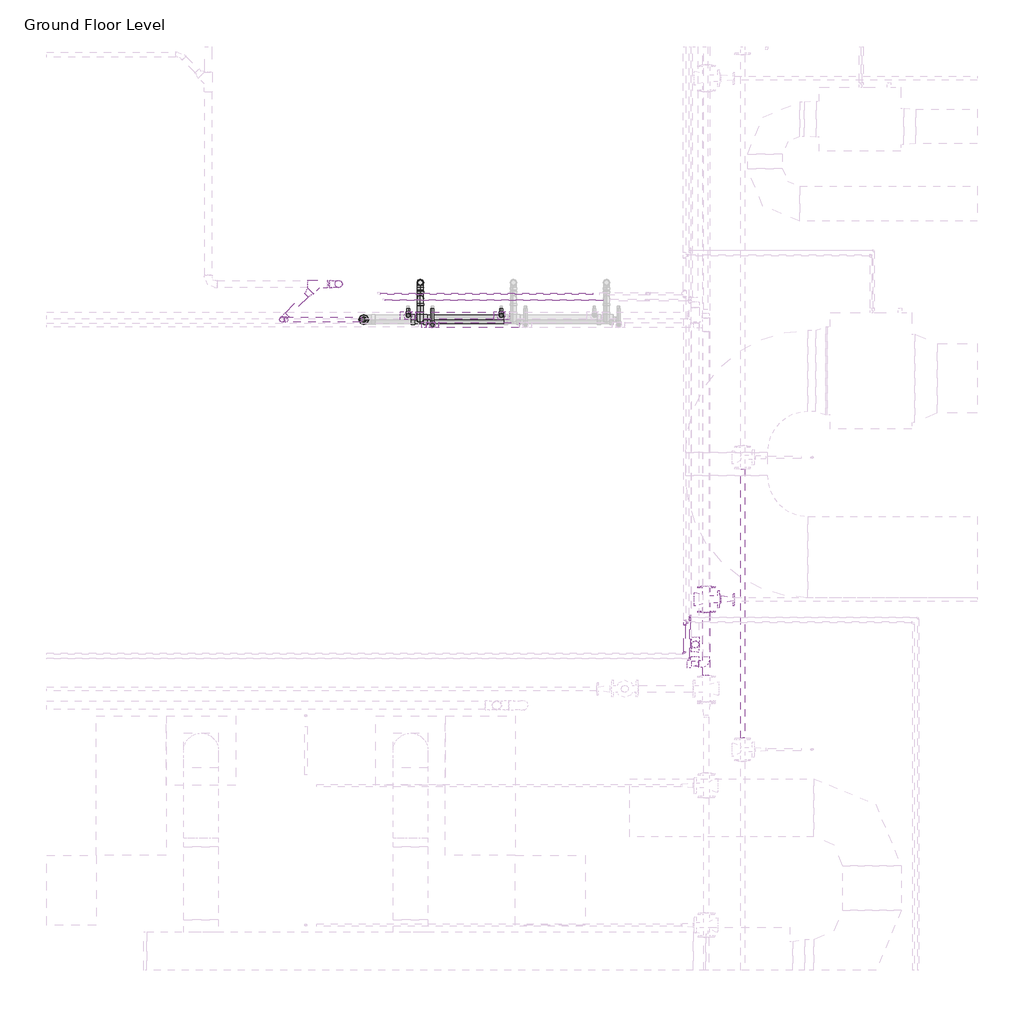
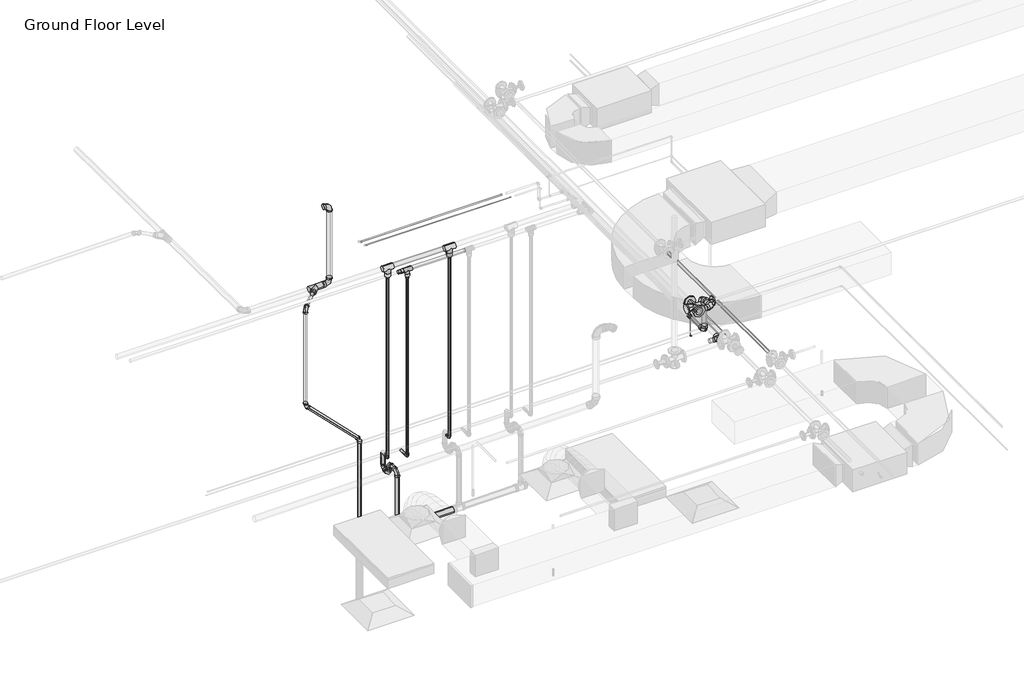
# One storey, part 16 of 74: 38 pipe fittings, 29 pipe segments.
"""IFC4 building model written with IfcOpenShell, lengths in millimetres."""

from ifc_helpers import new_model, si_unit, point, frame, frame_2d, origin, place, context, project, spatial, circle_curve, trimmed, segment, composite_curve, outline, extrude, transform, mapped, element, save
from components import m_bend_pvc_sch_40_dwv_standard_1e7bdcc1, m_bend_pvc_sch_40_dwv_standard_776e50c4, m_bend_pvc_sch_40_dwv_standard_aab78995, m_bend_pvc_sch_40_dwv_standard_952ced8a, m_bend_pvc_sch_40_dwv_standard_1eaeee76, m_bend_pvc_sch_40_dwv_standard_35448a73, m_bend_pvc_sch_40_dwv_standard_15ff6dcd, m_elbow_generic_standard_a088f956, m_elbow_generic_standard_2a704253, m_reducer_flanged_cs_class_150_standard_a7631c35, m_reducer_pvc_sch_40_dwv_standard_b84ad399, m_reducer_pvc_sch_40_dwv_standard_7e12a7c1, m_tee_generic_standard_5b2ed4d4, m_tee_generic_standard_cdc1cff5, m_tee_pvc_sch_40_standard_19f5fb6d, m_tee_reducing_sanitary_pvc_sch_40_dwv_standard_21d2848c, m_tee_round_base_flanged_cs_class_150_standard_dd767e04, m_transition_generic_standard_6dc712c0, m_transition_generic_standard_bdcfe2c1, m_transition_generic_standard_2d362458, standard_b266ab3f, standard_08ff6011, standard_d0d0b892, standard_cd25fed3, standard_83629b21, standard_57727813, standard_9d5ac8af, standard_102e5625

model = new_model("IFC4")

# Units and contexts
model_context = context("Model", 3, world=origin())
ifc_project = project(units=[si_unit("LENGTHUNIT", "METRE", prefix="MILLI")], contexts=[model_context])

# Site, building, storey
site = spatial("IfcSite", under=ifc_project)
building = spatial("IfcBuilding", under=site)
storey = spatial("IfcBuildingStorey", under=building, Name="Ground Floor Level", Elevation=900.0)

# Pipe fittings
placement = place(None, origin())
m_bend_pvc_sch_40_dwv_standard_shape = m_bend_pvc_sch_40_dwv_standard_1e7bdcc1(model_context)
element("IfcPipeFitting", 1, ObjectType="M_Bend - PVC - Sch 40 - DWV : Standard", at=placement, inside=storey, context=model_context, shape_type="MappedRepresentation", body=[
    mapped(m_bend_pvc_sch_40_dwv_standard_shape, transform((3226.7846789, -32541.2164355, 1350.0), x_axis=(0.0, 0.0, -1.0), y_axis=(0.0, -1.0, 0.0), z_axis=(-1.0, 0.0, 0.0))),
])
m_bend_pvc_sch_40_dwv_standard_2_shape = m_bend_pvc_sch_40_dwv_standard_776e50c4(model_context)
element("IfcPipeFitting", 2, ObjectType="M_Bend - PVC - Sch 40 - DWV : Standard", at=placement, inside=storey, context=model_context, shape_type="MappedRepresentation", body=[
    mapped(m_bend_pvc_sch_40_dwv_standard_2_shape, transform((3226.7846789, -32676.2164355, 1348.45), x_axis=(0.0, -0.9999500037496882, -0.009999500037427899), y_axis=(0.0, -0.009999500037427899, 0.9999500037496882), z_axis=(-1.0, 0.0, 0.0))),
])
element("IfcPipeFitting", 3, ObjectType="M_Bend - PVC - Sch 40 - DWV : Standard", at=placement, inside=storey, context=model_context, shape_type="MappedRepresentation", body=[
    mapped(m_bend_pvc_sch_40_dwv_standard_2_shape, transform((3226.7846789, -32676.2164355, 1490.0), x_axis=(0.0, 0.0, 1.0), y_axis=(0.0, -1.0, 0.0), z_axis=(1.0, 0.0, 0.0))),
])
m_bend_pvc_sch_40_dwv_standard_3_shape = m_bend_pvc_sch_40_dwv_standard_aab78995(model_context)
element("IfcPipeFitting", 4, ObjectType="M_Bend - PVC - Sch 40 - DWV : Standard", at=placement, inside=storey, context=model_context, shape_type="MappedRepresentation", body=[
    mapped(m_bend_pvc_sch_40_dwv_standard_3_shape, transform((3226.7846789, -32858.7119065, 1488.4250453), x_axis=(0.0, -0.999968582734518, -0.007926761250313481), y_axis=(0.0, 0.007926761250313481, -0.999968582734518), z_axis=(1.0, 0.0, 0.0))),
])
m_bend_pvc_sch_40_dwv_standard_4_shape = m_bend_pvc_sch_40_dwv_standard_952ced8a(model_context)
element("IfcPipeFitting", 5, ObjectType="M_Bend - PVC - Sch 40 - DWV : Standard", at=placement, inside=storey, context=model_context, shape_type="MappedRepresentation", body=[
    mapped(m_bend_pvc_sch_40_dwv_standard_4_shape, transform((2524.6562734, -32554.2948449, 4136.397893), x_axis=(0.9999500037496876, 0.0, 0.009999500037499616), y_axis=(-0.009999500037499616, 0.0, 0.9999500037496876), z_axis=(0.0, -1.0, 0.0))),
])
m_bend_pvc_sch_40_dwv_standard_5_shape = m_bend_pvc_sch_40_dwv_standard_1eaeee76(model_context)
element("IfcPipeFitting", 6, ObjectType="M_Bend - PVC - Sch 40 - DWV : Standard", at=placement, inside=storey, context=model_context, shape_type="MappedRepresentation", body=[
    mapped(m_bend_pvc_sch_40_dwv_standard_5_shape, transform((2524.640275, -32554.2948449, 5200.0), x_axis=(0.0, 0.0, 1.0), y_axis=(-1.0, 0.0, 0.0), z_axis=(0.0, -1.0, 0.0))),
])
m_bend_pvc_sch_40_dwv_standard_6_shape = m_bend_pvc_sch_40_dwv_standard_35448a73(model_context)
element("IfcPipeFitting", 7, ObjectType="M_Bend - PVC - Sch 40 - DWV : Standard", at=placement, inside=storey, context=model_context, shape_type="MappedRepresentation", body=[
    mapped(m_bend_pvc_sch_40_dwv_standard_6_shape, transform((2740.8154211, -32858.7119065, 2103.6875), x_axis=(0.0, 0.0, 1.0), y_axis=(-1.0, 0.0, 0.0), z_axis=(0.0, -1.0, 0.0))),
])
element("IfcPipeFitting", 8, ObjectType="M_Bend - PVC - Sch 40 - DWV : Standard", at=placement, inside=storey, context=model_context, shape_type="MappedRepresentation", body=[
    mapped(m_bend_pvc_sch_40_dwv_standard_6_shape, transform((2040.8154211, -32858.7119065, 2803.6875), x_axis=(0.0, 0.0, -1.0), y_axis=(1.0, 0.0, 0.0), z_axis=(0.0, -1.0, 0.0))),
])
m_bend_pvc_sch_40_dwv_standard_7_shape = m_bend_pvc_sch_40_dwv_standard_15ff6dcd(model_context)
element("IfcPipeFitting", 9, ObjectType="M_Bend - PVC - Sch 40 - DWV : Standard", at=placement, inside=storey, context=model_context, shape_type="MappedRepresentation", body=[
    mapped(m_bend_pvc_sch_40_dwv_standard_7_shape, transform((2040.8154211, -32858.7119065, 4132.2), x_axis=(0.0, 0.0, 1.0), y_axis=(0.7067664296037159, 0.7074469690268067, 0.0), z_axis=(-0.7074469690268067, 0.7067664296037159, 0.0))),
])
m_elbow_generic_standard_shape = m_elbow_generic_standard_a088f956(model_context)
element("IfcPipeFitting", 10, ObjectType="M_Elbow - Generic : Standard", at=placement, inside=storey, context=model_context, shape_type="MappedRepresentation", body=[
    mapped(m_elbow_generic_standard_shape, transform((5497.8951827, -35730.466218, 4390.0), x_axis=(1.0, 0.0, 0.0), y_axis=(0.0, 1.0, 0.0), z_axis=(0.0, 0.0, 1.0))),
])
m_elbow_generic_standard_2_shape = m_elbow_generic_standard_2a704253(model_context)
element("IfcPipeFitting", 11, ObjectType="M_Elbow - Generic : Standard", at=placement, inside=storey, context=model_context, shape_type="MappedRepresentation", body=[
    mapped(m_elbow_generic_standard_2_shape, transform((5543.9904113, -35773.5402522, 4377.5), x_axis=(1.0, 0.0, 0.0), y_axis=(0.0, 1.0, 0.0), z_axis=(0.0, 0.0, 1.0))),
])
element("IfcPipeFitting", 12, ObjectType="M_Elbow - Generic : Standard", at=placement, inside=storey, context=model_context, shape_type="MappedRepresentation", body=[
    mapped(m_elbow_generic_standard_2_shape, transform((5543.9904113, -35420.6009836, 4084.9), x_axis=(0.0, 0.0, -1.0), y_axis=(1.0, 0.0, 0.0), z_axis=(0.0, -1.0, 0.0))),
])
m_reducer_flanged_cs_class_150_standard_shape = m_reducer_flanged_cs_class_150_standard_a7631c35(model_context)
element("IfcPipeFitting", 13, ObjectType="M_Reducer - Flanged - CS - Class 150 : Standard", at=placement, inside=storey, context=model_context, shape_type="MappedRepresentation", body=[
    mapped(m_reducer_flanged_cs_class_150_standard_shape, transform((5798.6174894, -35264.7846466, 4347.5), x_axis=(1.0, 0.0, 0.0), y_axis=(0.0, 0.0, 1.0), z_axis=(0.0, -1.0, 0.0))),
])
m_reducer_pvc_sch_40_dwv_standard_shape = m_reducer_pvc_sch_40_dwv_standard_b84ad399(model_context)
element("IfcPipeFitting", 14, ObjectType="M_Reducer - PVC - Sch 40 - DWV : Standard", at=placement, inside=storey, context=model_context, shape_type="MappedRepresentation", body=[
    mapped(m_reducer_pvc_sch_40_dwv_standard_shape, transform((2740.8154211, -32858.7119065, 785.9492095), x_axis=(0.0, 0.0, 1.0), y_axis=(-1.0, 0.0, 0.0), z_axis=(0.0, -1.0, 0.0))),
])
m_reducer_pvc_sch_40_dwv_standard_2_shape = m_reducer_pvc_sch_40_dwv_standard_7e12a7c1(model_context)
element("IfcPipeFitting", 15, ObjectType="M_Reducer - PVC - Sch 40 - DWV : Standard", at=placement, inside=storey, context=model_context, shape_type="MappedRepresentation", body=[
    mapped(m_reducer_pvc_sch_40_dwv_standard_2_shape, transform((2285.3872765, -32613.9038225, 4134.1686229), x_axis=(-0.7067614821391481, -0.707433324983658, -0.0051281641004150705), y_axis=(0.7073812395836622, -0.7067747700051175, 0.009011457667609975), z_axis=(-0.009999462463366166, 0.0027413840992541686, 0.999946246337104))),
])
m_tee_generic_standard_shape = m_tee_generic_standard_5b2ed4d4(model_context)
element("IfcPipeFitting", 16, ObjectType="M_Tee - Generic : Standard", at=placement, inside=storey, context=model_context, shape_type="MappedRepresentation", body=[
    mapped(m_tee_generic_standard_shape, transform((5543.9904113, -35420.6009836, 4377.5), x_axis=(0.0, 1.0, 0.0), y_axis=(0.0, 0.0, 1.0), z_axis=(1.0, 0.0, 0.0))),
])
m_tee_generic_standard_2_shape = m_tee_generic_standard_cdc1cff5(model_context)
element("IfcPipeFitting", 17, ObjectType="M_Tee - Generic : Standard", at=placement, inside=storey, context=model_context, shape_type="MappedRepresentation", body=[
    mapped(m_tee_generic_standard_2_shape, transform((5497.8951827, -35463.1206952, 4390.0), x_axis=(0.0, 1.0, 0.0), y_axis=(-1.0, 0.0, 0.0), z_axis=(0.0, 0.0, 1.0))),
])
m_tee_pvc_sch_40_standard_shape = m_tee_pvc_sch_40_standard_19f5fb6d(model_context)
element("IfcPipeFitting", 18, ObjectType="M_Tee - PVC - Sch 40 : Standard", at=placement, inside=storey, context=model_context, shape_type="MappedRepresentation", body=[
    mapped(m_tee_pvc_sch_40_standard_shape, transform((2344.939644, -32554.2948449, 4134.6007267), x_axis=(0.9999500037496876, 0.0, 0.009999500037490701), y_axis=(2.7412470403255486e-05, 0.9999962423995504, -0.002741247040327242), z_axis=(-0.009999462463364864, 0.0027413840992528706, 0.9999462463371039))),
])
m_tee_reducing_sanitary_pvc_sch_40_dwv_standard_shape = m_tee_reducing_sanitary_pvc_sch_40_dwv_standard_21d2848c(model_context)
element("IfcPipeFitting", 19, ObjectType="M_Tee Reducing Sanitary - PVC - Sch 40 - DWV : Standard", at=placement, inside=storey, context=model_context, shape_type="MappedRepresentation", body=[
    mapped(m_tee_reducing_sanitary_pvc_sch_40_dwv_standard_shape, transform((3226.7846789, -32858.7119065, 706.4596926), x_axis=(0.9999500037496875, 0.0, 0.00999950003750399), y_axis=(0.00999950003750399, 0.0, -0.9999500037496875), z_axis=(0.0, 1.0, 0.0))),
])
m_tee_round_base_flanged_cs_class_150_standard_shape = m_tee_round_base_flanged_cs_class_150_standard_dd767e04(model_context)
element("IfcPipeFitting", 20, ObjectType="M_Tee Round Base - Flanged - CS - Class 150 : Standard", at=placement, inside=storey, context=model_context, shape_type="MappedRepresentation", body=[
    mapped(m_tee_round_base_flanged_cs_class_150_standard_shape, transform((5684.6174894, -35264.7846466, 4347.5), x_axis=(0.0, -1.0, 0.0), y_axis=(-1.0, 0.0, 0.0), z_axis=(0.0, 0.0, -1.0))),
])
m_transition_generic_standard_shape = m_transition_generic_standard_6dc712c0(model_context)
element("IfcPipeFitting", 21, ObjectType="M_Transition - Generic : Standard", at=placement, inside=storey, context=model_context, shape_type="MappedRepresentation", body=[
    mapped(m_transition_generic_standard_shape, transform((5497.8951827, -35485.3456952, 4390.0), x_axis=(0.0, -1.0, 0.0), y_axis=(1.0, 0.0, 0.0), z_axis=(0.0, 0.0, 1.0))),
])
element("IfcPipeFitting", 22, ObjectType="M_Transition - Generic : Standard", at=placement, inside=storey, context=model_context, shape_type="MappedRepresentation", body=[
    mapped(m_transition_generic_standard_shape, transform((5520.1201827, -35463.1206952, 4390.0), x_axis=(1.0, 0.0, 0.0), y_axis=(0.0, 1.0, 0.0), z_axis=(0.0, 0.0, 1.0))),
])
m_transition_generic_standard_2_shape = m_transition_generic_standard_bdcfe2c1(model_context)
element("IfcPipeFitting", 23, ObjectType="M_Transition - Generic : Standard", at=placement, inside=storey, context=model_context, shape_type="MappedRepresentation", body=[
    mapped(m_transition_generic_standard_2_shape, transform((5543.9904113, -35441.2384836, 4377.5), x_axis=(0.0, -1.0, 0.0), y_axis=(1.0, 0.0, 0.0), z_axis=(0.0, 0.0, 1.0))),
])
m_transition_generic_standard_3_shape = m_transition_generic_standard_2d362458(model_context)
element("IfcPipeFitting", 24, ObjectType="M_Transition - Generic : Standard", at=placement, inside=storey, context=model_context, shape_type="MappedRepresentation", body=[
    mapped(m_transition_generic_standard_3_shape, transform((5543.9904113, -35420.6009836, 4356.8625), x_axis=(0.0, 0.0, -1.0), y_axis=(-1.0, 0.0, 0.0), z_axis=(0.0, 1.0, 0.0))),
])
standard_shape = standard_b266ab3f(model_context)
element("IfcPipeFitting", 25, ObjectType="M_Elbow - CPVC - Sch 40 : Standard", at=placement, inside=storey, context=model_context, shape_type="MappedRepresentation", body=[
    mapped(standard_shape, transform((3922.4697583, -32824.9853451, 1690.0), x_axis=(0.0, 0.0, -1.0), y_axis=(0.0, 1.0, 0.0), z_axis=(1.0, 0.0, 0.0))),
])
element("IfcPipeFitting", 26, ObjectType="M_Elbow - CPVC - Sch 40 : Standard", at=placement, inside=storey, context=model_context, shape_type="MappedRepresentation", body=[
    mapped(standard_shape, transform((3122.4697583, -32824.9853451, 1690.0), x_axis=(0.0, 0.0, -1.0), y_axis=(0.0, 1.0, 0.0), z_axis=(1.0, 0.0, 0.0))),
])
element("IfcPipeFitting", 27, ObjectType="M_Elbow - CPVC - Sch 40 : Standard", at=placement, inside=storey, context=model_context, shape_type="MappedRepresentation", body=[
    mapped(standard_shape, transform((3331.0995995, -32905.870708, 1690.0), x_axis=(0.0, -1.0, 0.0), y_axis=(0.0, 0.0, 1.0), z_axis=(-1.0, 0.0, 0.0))),
])
standard_2_shape = standard_08ff6011(model_context)
element("IfcPipeFitting", 28, ObjectType="M_Tee - CPVC - Sch 40 : Standard", at=placement, inside=storey, context=model_context, shape_type="MappedRepresentation", body=[
    mapped(standard_2_shape, transform((3331.0995995, -32905.870708, 4250.0), x_axis=(1.0, 0.0, 0.0), y_axis=(0.0, 0.0, 1.0), z_axis=(0.0, -1.0, 0.0))),
])
standard_3_shape = standard_d0d0b892(model_context)
element("IfcPipeFitting", 29, ObjectType="M_Coupling Reducing - CPVC - Sch 40 : Standard", at=placement, inside=storey, context=model_context, shape_type="MappedRepresentation", body=[
    mapped(standard_3_shape, transform((3277.1245995, -32905.870708, 4250.0), x_axis=(-1.0, 0.0, 0.0), y_axis=(0.0, -1.0, 0.0), z_axis=(0.0, 0.0, 1.0))),
])
standard_4_shape = standard_cd25fed3(model_context)
element("IfcPipeFitting", 30, ObjectType="M_Tee - CPVC - Sch 40 : Standard", at=placement, inside=storey, context=model_context, shape_type="MappedRepresentation", body=[
    mapped(standard_4_shape, transform((3922.4697583, -32824.9853451, 4300.0), x_axis=(-1.0, 0.0, 0.0), y_axis=(0.0, 0.0, 1.0), z_axis=(0.0, 1.0, 0.0))),
])
element("IfcPipeFitting", 31, ObjectType="M_Tee - CPVC - Sch 40 : Standard", at=placement, inside=storey, context=model_context, shape_type="MappedRepresentation", body=[
    mapped(standard_4_shape, transform((3122.4697583, -32824.9853451, 4300.0), x_axis=(-1.0, 0.0, 0.0), y_axis=(0.0, 0.0, 1.0), z_axis=(0.0, 1.0, 0.0))),
])
standard_5_shape = standard_83629b21(model_context)
element("IfcPipeFitting", 32, ObjectType="M_Coupling Reducing - CPVC - Sch 40 : Standard", at=placement, inside=storey, context=model_context, shape_type="MappedRepresentation", body=[
    mapped(standard_5_shape, transform((3331.0995995, -32905.870708, 4196.025), x_axis=(0.0, 0.0, -1.0), y_axis=(-1.0, 0.0, 0.0), z_axis=(0.0, 1.0, 0.0))),
])
standard_6_shape = standard_57727813(model_context)
element("IfcPipeFitting", 33, ObjectType="M_Elbow - CPVC - Sch 40 : Standard", at=placement, inside=storey, context=model_context, shape_type="MappedRepresentation", body=[
    mapped(standard_6_shape, transform((5589.646628, -35653.7116931, 4719.8375), x_axis=(0.0, 0.0, 1.0), y_axis=(-0.06975647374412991, -0.997564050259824, 0.0), z_axis=(0.997564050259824, -0.06975647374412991, 0.0))),
])
element("IfcPipeFitting", 34, ObjectType="M_Elbow - CPVC - Sch 40 : Standard", at=placement, inside=storey, context=model_context, shape_type="MappedRepresentation", body=[
    mapped(standard_6_shape, transform((5585.1617227, -35819.459752, 4719.8375), x_axis=(1.0, 0.0, 0.0), y_axis=(0.0, 1.0, 0.0), z_axis=(0.0, 0.0, 1.0))),
])
element("IfcPipeFitting", 35, ObjectType="M_Elbow - CPVC - Sch 40 : Standard", at=placement, inside=storey, context=model_context, shape_type="MappedRepresentation", body=[
    mapped(standard_6_shape, transform((5589.646628, -35653.7116931, 4300.0), x_axis=(0.0, 0.0, -1.0), y_axis=(0.0, 1.0, 0.0), z_axis=(1.0, 0.0, 0.0))),
])
standard_7_shape = standard_9d5ac8af(model_context)
element("IfcPipeFitting", 36, ObjectType="M_Coupling Reducing - CPVC - Sch 40 : Standard", at=placement, inside=storey, context=model_context, shape_type="MappedRepresentation", body=[
    mapped(standard_7_shape, transform((3922.4697583, -32824.9853451, 4233.325), x_axis=(0.0, 0.0, -1.0), y_axis=(-1.0, 0.0, 0.0), z_axis=(0.0, 1.0, 0.0))),
])
element("IfcPipeFitting", 37, ObjectType="M_Coupling Reducing - CPVC - Sch 40 : Standard", at=placement, inside=storey, context=model_context, shape_type="MappedRepresentation", body=[
    mapped(standard_7_shape, transform((3122.4697583, -32824.9853451, 4233.325), x_axis=(0.0, 0.0, -1.0), y_axis=(-1.0, 0.0, 0.0), z_axis=(0.0, 1.0, 0.0))),
])
standard_8_shape = standard_102e5625(model_context)
element("IfcPipeFitting", 38, ObjectType="M_Elbow - CPVC - Sch 40 : Standard", at=placement, inside=storey, context=model_context, shape_type="MappedRepresentation", body=[
    mapped(standard_8_shape, transform((5680.5575802, -35819.459752, 4250.0), x_axis=(1.0, 0.0, 0.0), y_axis=(0.0, 1.0, 0.0), z_axis=(0.0, 0.0, 1.0))),
])

# Pipe segments
element("IfcPipeSegment", 39, ObjectType="CPVC", at=placement, inside=storey, context=model_context, shape_type="SweptSolid", body=[
    extrude(outline(composite_curve([segment(trimmed(circle_curve(frame_2d((5589.646628, -35653.7116931)), 30.1625), [point((5559.484128, -35653.7116931))], [point((5589.646628, -35623.5491931))], False, "CARTESIAN"), True, "CONTINUOUS"), segment(trimmed(circle_curve(frame_2d((5589.646628, -35653.7116931)), 30.1625), [point((5589.646628, -35623.5491931))], [point((5619.809128, -35653.7116931))], False, "CARTESIAN"), True, "CONTINUOUS"), segment(trimmed(circle_curve(frame_2d((5589.646628, -35653.7116931)), 30.1625), [point((5619.809128, -35653.7116931))], [point((5589.646628, -35683.8741931))], False, "CARTESIAN"), True, "CONTINUOUS"), segment(trimmed(circle_curve(frame_2d((5589.646628, -35653.7116931)), 30.1625), [point((5589.646628, -35683.8741931))], [point((5559.484128, -35653.7116931))], False, "CARTESIAN"), True, "CONTINUOUS")], self_intersect=False)), frame((0.0, 0.0, 4364.29375), z_axis=(0.0, 0.0, 1.0), x_axis=(1.0, 0.0, 0.0)), (0.0, 0.0, 1.0), 291.25),
])
element("IfcPipeSegment", 40, ObjectType="CPVC", at=placement, inside=storey, context=model_context, shape_type="SweptSolid", body=[
    extrude(outline(composite_curve([segment(trimmed(circle_curve(frame_2d((1690.0, 3922.4697583)), 13.335), [point((1690.0, 3935.8047583))], [point((1703.335, 3922.4697583))], False, "CARTESIAN"), True, "CONTINUOUS"), segment(trimmed(circle_curve(frame_2d((1690.0, 3922.4697583)), 13.335), [point((1703.335, 3922.4697583))], [point((1690.0, 3909.1347583))], False, "CARTESIAN"), True, "CONTINUOUS"), segment(trimmed(circle_curve(frame_2d((1690.0, 3922.4697583)), 13.335), [point((1690.0, 3909.1347583))], [point((1676.665, 3922.4697583))], False, "CARTESIAN"), True, "CONTINUOUS"), segment(trimmed(circle_curve(frame_2d((1690.0, 3922.4697583)), 13.335), [point((1676.665, 3922.4697583))], [point((1690.0, 3935.8047583))], False, "CARTESIAN"), True, "CONTINUOUS")], self_intersect=False)), frame((0.0, -32789.6602951, 0.0), z_axis=(0.0, 1.0, 0.0), x_axis=(0.0, 0.0, 1.0)), (0.0, 0.0, 1.0), 24.8756485),
])
element("IfcPipeSegment", 41, ObjectType="CPVC", at=placement, inside=storey, context=model_context, shape_type="SweptSolid", body=[
    extrude(outline(composite_curve([segment(trimmed(circle_curve(frame_2d((3922.4697583, -32824.9853451)), 13.335), [point((3935.8047583, -32824.9853451))], [point((3922.4697583, -32838.3203451))], False, "CARTESIAN"), True, "CONTINUOUS"), segment(trimmed(circle_curve(frame_2d((3922.4697583, -32824.9853451)), 13.335), [point((3922.4697583, -32838.3203451))], [point((3909.1347583, -32824.9853451))], False, "CARTESIAN"), True, "CONTINUOUS"), segment(trimmed(circle_curve(frame_2d((3922.4697583, -32824.9853451)), 13.335), [point((3909.1347583, -32824.9853451))], [point((3922.4697583, -32811.6503451))], False, "CARTESIAN"), True, "CONTINUOUS"), segment(trimmed(circle_curve(frame_2d((3922.4697583, -32824.9853451)), 13.335), [point((3922.4697583, -32811.6503451))], [point((3935.8047583, -32824.9853451))], False, "CARTESIAN"), True, "CONTINUOUS")], self_intersect=False)), frame((0.0, 0.0, 1725.32505), z_axis=(0.0, 0.0, 1.0), x_axis=(1.0, 0.0, 0.0)), (0.0, 0.0, 1.0), 2431.503075),
])
element("IfcPipeSegment", 42, ObjectType="CPVC", at=placement, inside=storey, context=model_context, shape_type="SweptSolid", body=[
    extrude(outline(composite_curve([segment(trimmed(circle_curve(frame_2d((-32824.9853451, 4300.0)), 30.1625), [point((-32855.1478451, 4300.0))], [point((-32824.9853451, 4330.1625))], False, "CARTESIAN"), True, "CONTINUOUS"), segment(trimmed(circle_curve(frame_2d((-32824.9853451, 4300.0)), 30.1625), [point((-32824.9853451, 4330.1625))], [point((-32794.8228451, 4300.0))], False, "CARTESIAN"), True, "CONTINUOUS"), segment(trimmed(circle_curve(frame_2d((-32824.9853451, 4300.0)), 30.1625), [point((-32794.8228451, 4300.0))], [point((-32824.9853451, 4269.8375))], False, "CARTESIAN"), True, "CONTINUOUS"), segment(trimmed(circle_curve(frame_2d((-32824.9853451, 4300.0)), 30.1625), [point((-32824.9853451, 4269.8375))], [point((-32855.1478451, 4300.0))], False, "CARTESIAN"), True, "CONTINUOUS")], self_intersect=False)), frame((3189.1447583, 0.0, 0.0), z_axis=(1.0, 0.0, 0.0), x_axis=(0.0, 1.0, 0.0)), (0.0, 0.0, 1.0), 666.65),
])
element("IfcPipeSegment", 43, ObjectType="CPVC", at=placement, inside=storey, context=model_context, shape_type="SweptSolid", body=[
    extrude(outline(composite_curve([segment(trimmed(circle_curve(frame_2d((1690.0, 3122.4697583)), 13.335), [point((1690.0, 3135.8047583))], [point((1703.335, 3122.4697583))], False, "CARTESIAN"), True, "CONTINUOUS"), segment(trimmed(circle_curve(frame_2d((1690.0, 3122.4697583)), 13.335), [point((1703.335, 3122.4697583))], [point((1690.0, 3109.1347583))], False, "CARTESIAN"), True, "CONTINUOUS"), segment(trimmed(circle_curve(frame_2d((1690.0, 3122.4697583)), 13.335), [point((1690.0, 3109.1347583))], [point((1676.665, 3122.4697583))], False, "CARTESIAN"), True, "CONTINUOUS"), segment(trimmed(circle_curve(frame_2d((1690.0, 3122.4697583)), 13.335), [point((1676.665, 3122.4697583))], [point((1690.0, 3135.8047583))], False, "CARTESIAN"), True, "CONTINUOUS")], self_intersect=False)), frame((0.0, -32789.6602951, 0.0), z_axis=(0.0, 1.0, 0.0), x_axis=(0.0, 0.0, 1.0)), (0.0, 0.0, 1.0), 24.8756485),
])
element("IfcPipeSegment", 44, ObjectType="CPVC", at=placement, inside=storey, context=model_context, shape_type="SweptSolid", body=[
    extrude(outline(composite_curve([segment(trimmed(circle_curve(frame_2d((3122.4697583, -32824.9853451)), 13.335), [point((3135.8047583, -32824.9853451))], [point((3122.4697583, -32838.3203451))], False, "CARTESIAN"), True, "CONTINUOUS"), segment(trimmed(circle_curve(frame_2d((3122.4697583, -32824.9853451)), 13.335), [point((3122.4697583, -32838.3203451))], [point((3109.1347583, -32824.9853451))], False, "CARTESIAN"), True, "CONTINUOUS"), segment(trimmed(circle_curve(frame_2d((3122.4697583, -32824.9853451)), 13.335), [point((3109.1347583, -32824.9853451))], [point((3122.4697583, -32811.6503451))], False, "CARTESIAN"), True, "CONTINUOUS"), segment(trimmed(circle_curve(frame_2d((3122.4697583, -32824.9853451)), 13.335), [point((3122.4697583, -32811.6503451))], [point((3135.8047583, -32824.9853451))], False, "CARTESIAN"), True, "CONTINUOUS")], self_intersect=False)), frame((0.0, 0.0, 1725.32505), z_axis=(0.0, 0.0, 1.0), x_axis=(1.0, 0.0, 0.0)), (0.0, 0.0, 1.0), 2431.503075),
])
element("IfcPipeSegment", 45, ObjectType="CPVC", at=placement, inside=storey, context=model_context, shape_type="SweptSolid", body=[
    extrude(outline(composite_curve([segment(trimmed(circle_curve(frame_2d((1690.0, 3331.0995995)), 13.335), [point((1690.0, 3317.7645995))], [point((1676.665, 3331.0995995))], False, "CARTESIAN"), True, "CONTINUOUS"), segment(trimmed(circle_curve(frame_2d((1690.0, 3331.0995995)), 13.335), [point((1676.665, 3331.0995995))], [point((1690.0, 3344.4345995))], False, "CARTESIAN"), True, "CONTINUOUS"), segment(trimmed(circle_curve(frame_2d((1690.0, 3331.0995995)), 13.335), [point((1690.0, 3344.4345995))], [point((1703.335, 3331.0995995))], False, "CARTESIAN"), True, "CONTINUOUS"), segment(trimmed(circle_curve(frame_2d((1690.0, 3331.0995995)), 13.335), [point((1703.335, 3331.0995995))], [point((1690.0, 3317.7645995))], False, "CARTESIAN"), True, "CONTINUOUS")], self_intersect=False)), frame((0.0, -32870.545658, 0.0), z_axis=(0.0, 1.0, 0.0), x_axis=(0.0, 0.0, 1.0)), (0.0, 0.0, 1.0), 105.7610114),
])
element("IfcPipeSegment", 46, ObjectType="CPVC", at=placement, inside=storey, context=model_context, shape_type="SweptSolid", body=[
    extrude(outline(composite_curve([segment(trimmed(circle_curve(frame_2d((3331.0995995, -32905.870708)), 13.335), [point((3317.7645995, -32905.870708))], [point((3331.0995995, -32892.535708))], False, "CARTESIAN"), True, "CONTINUOUS"), segment(trimmed(circle_curve(frame_2d((3331.0995995, -32905.870708)), 13.335), [point((3331.0995995, -32892.535708))], [point((3344.4345995, -32905.870708))], False, "CARTESIAN"), True, "CONTINUOUS"), segment(trimmed(circle_curve(frame_2d((3331.0995995, -32905.870708)), 13.335), [point((3344.4345995, -32905.870708))], [point((3331.0995995, -32919.205708))], False, "CARTESIAN"), True, "CONTINUOUS"), segment(trimmed(circle_curve(frame_2d((3331.0995995, -32905.870708)), 13.335), [point((3331.0995995, -32919.205708))], [point((3317.7645995, -32905.870708))], False, "CARTESIAN"), True, "CONTINUOUS")], self_intersect=False)), frame((0.0, 0.0, 1725.32505), z_axis=(0.0, 0.0, 1.0), x_axis=(1.0, 0.0, 0.0)), (0.0, 0.0, 1.0), 2407.883075),
])
element("IfcPipeSegment", 47, ObjectType="CPVC", at=placement, inside=storey, context=model_context, shape_type="SweptSolid", body=[
    extrude(outline(composite_curve([segment(trimmed(circle_curve(frame_2d((-32905.870708, 4250.0)), 21.082), [point((-32884.788708, 4250.0))], [point((-32905.870708, 4228.918))], False, "CARTESIAN"), True, "CONTINUOUS"), segment(trimmed(circle_curve(frame_2d((-32905.870708, 4250.0)), 21.082), [point((-32905.870708, 4228.918))], [point((-32926.952708, 4250.0))], False, "CARTESIAN"), True, "CONTINUOUS"), segment(trimmed(circle_curve(frame_2d((-32905.870708, 4250.0)), 21.082), [point((-32926.952708, 4250.0))], [point((-32905.870708, 4271.082))], False, "CARTESIAN"), True, "CONTINUOUS"), segment(trimmed(circle_curve(frame_2d((-32905.870708, 4250.0)), 21.082), [point((-32905.870708, 4271.082))], [point((-32884.788708, 4250.0))], False, "CARTESIAN"), True, "CONTINUOUS")], self_intersect=False)), frame((3385.0745995, 0.0, 0.0), z_axis=(1.0, 0.0, 0.0), x_axis=(0.0, 1.0, 0.0)), (0.0, 0.0, 1.0), 692.05),
])
element("IfcPipeSegment", 48, ObjectType="CPVC", at=placement, inside=storey, context=model_context, shape_type="SweptSolid", body=[
    extrude(outline(composite_curve([segment(trimmed(circle_curve(frame_2d((-35819.459752, 4250.0)), 24.13), [point((-35843.589752, 4250.0))], [point((-35819.459752, 4274.13))], False, "CARTESIAN"), True, "CONTINUOUS"), segment(trimmed(circle_curve(frame_2d((-35819.459752, 4250.0)), 24.13), [point((-35819.459752, 4274.13))], [point((-35795.329752, 4250.0))], False, "CARTESIAN"), True, "CONTINUOUS"), segment(trimmed(circle_curve(frame_2d((-35819.459752, 4250.0)), 24.13), [point((-35795.329752, 4250.0))], [point((-35819.459752, 4225.87))], False, "CARTESIAN"), True, "CONTINUOUS"), segment(trimmed(circle_curve(frame_2d((-35819.459752, 4250.0)), 24.13), [point((-35819.459752, 4225.87))], [point((-35843.589752, 4250.0))], False, "CARTESIAN"), True, "CONTINUOUS")], self_intersect=False)), frame((5558.4766944, 0.0, 0.0), z_axis=(1.0, 0.0, 0.0), x_axis=(0.0, 1.0, 0.0)), (0.0, 0.0, 1.0), 59.3619358),
])
element("IfcPipeSegment", 49, ObjectType="Copper", at=placement, inside=storey, context=model_context, shape_type="SweptSolid", body=[
    extrude(outline(composite_curve([segment(trimmed(circle_curve(frame_2d((4390.0, 5497.8951827)), 6.5), [point((4390.0, 5491.3951827))], [point((4383.5, 5497.8951827))], False, "CARTESIAN"), True, "CONTINUOUS"), segment(trimmed(circle_curve(frame_2d((4390.0, 5497.8951827)), 6.5), [point((4383.5, 5497.8951827))], [point((4390.0, 5504.3951827))], False, "CARTESIAN"), True, "CONTINUOUS"), segment(trimmed(circle_curve(frame_2d((4390.0, 5497.8951827)), 6.5), [point((4390.0, 5504.3951827))], [point((4396.5, 5497.8951827))], False, "CARTESIAN"), True, "CONTINUOUS"), segment(trimmed(circle_curve(frame_2d((4390.0, 5497.8951827)), 6.5), [point((4396.5, 5497.8951827))], [point((4390.0, 5491.3951827))], False, "CARTESIAN"), True, "CONTINUOUS")], self_intersect=False)), frame((0.0, -35716.178718, 0.0), z_axis=(0.0, 1.0, 0.0), x_axis=(0.0, 0.0, 1.0)), (0.0, 0.0, 1.0), 226.0705229),
])
element("IfcPipeSegment", 50, ObjectType="Copper", at=placement, inside=storey, context=model_context, shape_type="SweptSolid", body=[
    extrude(outline(composite_curve([segment(trimmed(circle_curve(frame_2d((4377.5, 5543.9904113)), 3.35), [point((4377.5, 5540.6404113))], [point((4374.15, 5543.9904113))], False, "CARTESIAN"), True, "CONTINUOUS"), segment(trimmed(circle_curve(frame_2d((4377.5, 5543.9904113)), 3.35), [point((4374.15, 5543.9904113))], [point((4377.5, 5547.3404113))], False, "CARTESIAN"), True, "CONTINUOUS"), segment(trimmed(circle_curve(frame_2d((4377.5, 5543.9904113)), 3.35), [point((4377.5, 5547.3404113))], [point((4380.85, 5543.9904113))], False, "CARTESIAN"), True, "CONTINUOUS"), segment(trimmed(circle_curve(frame_2d((4377.5, 5543.9904113)), 3.35), [point((4380.85, 5543.9904113))], [point((4377.5, 5540.6404113))], False, "CARTESIAN"), True, "CONTINUOUS")], self_intersect=False)), frame((0.0, -35762.4027522, 0.0), z_axis=(0.0, 1.0, 0.0), x_axis=(0.0, 0.0, 1.0)), (0.0, 0.0, 1.0), 317.1955186),
])
element("IfcPipeSegment", 51, ObjectType="Copper", at=placement, inside=storey, context=model_context, shape_type="SweptSolid", body=[
    extrude(outline(composite_curve([segment(trimmed(circle_curve(frame_2d((-32638.716218, 4621.4908765)), 8.1), [point((-32646.816218, 4621.4908765))], [point((-32638.716218, 4629.5908765))], False, "CARTESIAN"), True, "CONTINUOUS"), segment(trimmed(circle_curve(frame_2d((-32638.716218, 4621.4908765)), 8.1), [point((-32638.716218, 4629.5908765))], [point((-32630.616218, 4621.4908765))], False, "CARTESIAN"), True, "CONTINUOUS"), segment(trimmed(circle_curve(frame_2d((-32638.716218, 4621.4908765)), 8.1), [point((-32630.616218, 4621.4908765))], [point((-32638.716218, 4613.3908765))], False, "CARTESIAN"), True, "CONTINUOUS"), segment(trimmed(circle_curve(frame_2d((-32638.716218, 4621.4908765)), 8.1), [point((-32638.716218, 4613.3908765))], [point((-32646.816218, 4621.4908765))], False, "CARTESIAN"), True, "CONTINUOUS")], self_intersect=False)), frame((2883.1643107, 0.0, 0.0), z_axis=(1.0, 0.0, 0.0), x_axis=(0.0, 1.0, 0.0)), (0.0, 0.0, 1.0), 1826.6062839),
])
element("IfcPipeSegment", 52, ObjectType="Copper", at=placement, inside=storey, context=model_context, shape_type="SweptSolid", body=[
    extrude(outline(composite_curve([segment(trimmed(circle_curve(frame_2d((-32691.5527522, 4591.0863665)), 4.9), [point((-32686.6527522, 4591.0863665))], [point((-32691.5527522, 4586.1863665))], False, "CARTESIAN"), True, "CONTINUOUS"), segment(trimmed(circle_curve(frame_2d((-32691.5527522, 4591.0863665)), 4.9), [point((-32691.5527522, 4586.1863665))], [point((-32696.4527522, 4591.0863665))], False, "CARTESIAN"), True, "CONTINUOUS"), segment(trimmed(circle_curve(frame_2d((-32691.5527522, 4591.0863665)), 4.9), [point((-32696.4527522, 4591.0863665))], [point((-32691.5527522, 4595.9863665))], False, "CARTESIAN"), True, "CONTINUOUS"), segment(trimmed(circle_curve(frame_2d((-32691.5527522, 4591.0863665)), 4.9), [point((-32691.5527522, 4595.9863665))], [point((-32686.6527522, 4591.0863665))], False, "CARTESIAN"), True, "CONTINUOUS")], self_intersect=False)), frame((2924.0496079, 0.0, 0.0), z_axis=(1.0, 0.0, 0.0), x_axis=(0.0, 1.0, 0.0)), (0.0, 0.0, 1.0), 1873.9099107),
])
element("IfcPipeSegment", 53, ObjectType="Copper", at=placement, inside=storey, context=model_context, shape_type="SweptSolid", body=[
    extrude(outline(composite_curve([segment(trimmed(circle_curve(frame_2d((5543.9904113, -35420.6009836)), 3.35), [point((5547.3404113, -35420.6009836))], [point((5543.9904113, -35423.9509836))], False, "CARTESIAN"), True, "CONTINUOUS"), segment(trimmed(circle_curve(frame_2d((5543.9904113, -35420.6009836)), 3.35), [point((5543.9904113, -35423.9509836))], [point((5540.6404113, -35420.6009836))], False, "CARTESIAN"), True, "CONTINUOUS"), segment(trimmed(circle_curve(frame_2d((5543.9904113, -35420.6009836)), 3.35), [point((5540.6404113, -35420.6009836))], [point((5543.9904113, -35417.2509836))], False, "CARTESIAN"), True, "CONTINUOUS"), segment(trimmed(circle_curve(frame_2d((5543.9904113, -35420.6009836)), 3.35), [point((5543.9904113, -35417.2509836))], [point((5547.3404113, -35420.6009836))], False, "CARTESIAN"), True, "CONTINUOUS")], self_intersect=False)), frame((0.0, 0.0, 4096.0375), z_axis=(0.0, 0.0, 1.0), x_axis=(1.0, 0.0, 0.0)), (0.0, 0.0, 1.0), 256.85625),
])
element("IfcPipeSegment", 54, ObjectType="PVC - DWV", at=placement, inside=storey, context=model_context, shape_type="SweptSolid", body=[
    extrude(outline(composite_curve([segment(trimmed(circle_curve(frame_2d((3226.7846789, -32541.2164355)), 24.13), [point((3250.9146789, -32541.2164355))], [point((3226.7846789, -32565.3464355))], False, "CARTESIAN"), True, "CONTINUOUS"), segment(trimmed(circle_curve(frame_2d((3226.7846789, -32541.2164355)), 24.13), [point((3226.7846789, -32565.3464355))], [point((3202.6546789, -32541.2164355))], False, "CARTESIAN"), True, "CONTINUOUS"), segment(trimmed(circle_curve(frame_2d((3226.7846789, -32541.2164355)), 24.13), [point((3202.6546789, -32541.2164355))], [point((3226.7846789, -32517.0864355))], False, "CARTESIAN"), True, "CONTINUOUS"), segment(trimmed(circle_curve(frame_2d((3226.7846789, -32541.2164355)), 24.13), [point((3226.7846789, -32517.0864355))], [point((3250.9146789, -32541.2164355))], False, "CARTESIAN"), True, "CONTINUOUS")], self_intersect=False)), frame((0.0, 0.0, 1411.8998), z_axis=(0.0, 0.0, 1.0), x_axis=(1.0, 0.0, 0.0)), (0.0, 0.0, 1.0), 138.1002),
])
element("IfcPipeSegment", 55, ObjectType="PVC - DWV", at=placement, inside=storey, context=model_context, shape_type="SweptSolid", body=[
    extrude(outline(composite_curve([segment(trimmed(circle_curve(frame_2d((0.0, -24.13)), 24.13), [point((-24.13, -24.13))], [point((0.0, 0.0))], False, "CARTESIAN"), True, "CONTINUOUS"), segment(trimmed(circle_curve(frame_2d((0.0, -24.13)), 24.13), [point((0.0, 0.0))], [point((24.13, -24.13))], False, "CARTESIAN"), True, "CONTINUOUS"), segment(trimmed(circle_curve(frame_2d((0.0, -24.13)), 24.13), [point((24.13, -24.13))], [point((0.0, -48.2599999))], False, "CARTESIAN"), True, "CONTINUOUS"), segment(trimmed(circle_curve(frame_2d((0.0, -24.13)), 24.13), [point((0.0, -48.2599999))], [point((-24.13, -24.13))], False, "CARTESIAN"), True, "CONTINUOUS")], self_intersect=False)), frame((3226.7846789, -32614.0784423, 1324.9401735), z_axis=(0.0, 0.9999500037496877, 0.009999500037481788), x_axis=(1.0, 0.0, 0.0)), (0.0, 0.0, 1.0), 11.2091497),
])
element("IfcPipeSegment", 56, ObjectType="PVC - DWV", at=placement, inside=storey, context=model_context, shape_type="SweptSolid", body=[
    extrude(outline(composite_curve([segment(trimmed(circle_curve(frame_2d((3226.7846789, -32676.2164355)), 24.13), [point((3202.6546789, -32676.2164355))], [point((3226.7846789, -32652.0864355))], False, "CARTESIAN"), True, "CONTINUOUS"), segment(trimmed(circle_curve(frame_2d((3226.7846789, -32676.2164355)), 24.13), [point((3226.7846789, -32652.0864355))], [point((3250.9146789, -32676.2164355))], False, "CARTESIAN"), True, "CONTINUOUS"), segment(trimmed(circle_curve(frame_2d((3226.7846789, -32676.2164355)), 24.13), [point((3250.9146789, -32676.2164355))], [point((3226.7846789, -32700.3464355))], False, "CARTESIAN"), True, "CONTINUOUS"), segment(trimmed(circle_curve(frame_2d((3226.7846789, -32676.2164355)), 24.13), [point((3226.7846789, -32700.3464355))], [point((3202.6546789, -32676.2164355))], False, "CARTESIAN"), True, "CONTINUOUS")], self_intersect=False)), frame((0.0, 0.0, 1410.3498), z_axis=(0.0, 0.0, 1.0), x_axis=(1.0, 0.0, 0.0)), (0.0, 0.0, 1.0), 17.7504),
])
element("IfcPipeSegment", 57, ObjectType="PVC - DWV", at=placement, inside=storey, context=model_context, shape_type="SweptSolid", body=[
    extrude(outline(composite_curve([segment(trimmed(circle_curve(frame_2d((0.0, -24.13)), 24.13), [point((-24.13, -24.13))], [point((0.0, 0.0))], False, "CARTESIAN"), True, "CONTINUOUS"), segment(trimmed(circle_curve(frame_2d((0.0, -24.13)), 24.13), [point((0.0, 0.0))], [point((24.13, -24.13))], False, "CARTESIAN"), True, "CONTINUOUS"), segment(trimmed(circle_curve(frame_2d((0.0, -24.13)), 24.13), [point((24.13, -24.13))], [point((0.0, -48.26))], False, "CARTESIAN"), True, "CONTINUOUS"), segment(trimmed(circle_curve(frame_2d((0.0, -24.13)), 24.13), [point((0.0, -48.26))], [point((-24.13, -24.13))], False, "CARTESIAN"), True, "CONTINUOUS")], self_intersect=False)), frame((3226.7846789, -32796.6227785, 1464.7864683), z_axis=(0.0, 0.9999685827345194, 0.007926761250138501), x_axis=(1.0, 0.0, 0.0)), (0.0, 0.0, 1.0), 58.7027548),
])
element("IfcPipeSegment", 58, ObjectType="PVC - DWV", at=placement, inside=storey, context=model_context, shape_type="SweptSolid", body=[
    extrude(outline(composite_curve([segment(trimmed(circle_curve(frame_2d((3226.7846789, -32858.7119065)), 24.13), [point((3202.6546789, -32858.7119065))], [point((3226.7846789, -32834.5819065))], False, "CARTESIAN"), True, "CONTINUOUS"), segment(trimmed(circle_curve(frame_2d((3226.7846789, -32858.7119065)), 24.13), [point((3226.7846789, -32834.5819065))], [point((3250.9146789, -32858.7119065))], False, "CARTESIAN"), True, "CONTINUOUS"), segment(trimmed(circle_curve(frame_2d((3226.7846789, -32858.7119065)), 24.13), [point((3250.9146789, -32858.7119065))], [point((3226.7846789, -32882.8419065))], False, "CARTESIAN"), True, "CONTINUOUS"), segment(trimmed(circle_curve(frame_2d((3226.7846789, -32858.7119065)), 24.13), [point((3226.7846789, -32882.8419065))], [point((3202.6546789, -32858.7119065))], False, "CARTESIAN"), True, "CONTINUOUS")], self_intersect=False)), frame((0.0, 0.0, 787.3071488), z_axis=(0.0, 0.0, 1.0), x_axis=(1.0, 0.0, 0.0)), (0.0, 0.0, 1.0), 639.2180965),
])
element("IfcPipeSegment", 59, ObjectType="PVC - DWV", at=placement, inside=storey, context=model_context, shape_type="SweptSolid", body=[
    extrude(outline(composite_curve([segment(trimmed(circle_curve(frame_2d((0.0, -36.5125)), 36.5125), [point((0.0, 0.0))], [point((36.5125, -36.5125))], False, "CARTESIAN"), True, "CONTINUOUS"), segment(trimmed(circle_curve(frame_2d((0.0, -36.5125)), 36.5125), [point((36.5125, -36.5125))], [point((0.0, -73.025))], False, "CARTESIAN"), True, "CONTINUOUS"), segment(trimmed(circle_curve(frame_2d((0.0, -36.5125)), 36.5125), [point((0.0, -73.025))], [point((-36.5125, -36.5125))], False, "CARTESIAN"), True, "CONTINUOUS"), segment(trimmed(circle_curve(frame_2d((0.0, -36.5125)), 36.5125), [point((-36.5125, -36.5125))], [point((0.0, 0.0))], False, "CARTESIAN"), True, "CONTINUOUS")], self_intersect=False)), frame((3286.2674481, -32822.1994065, 707.0545203), z_axis=(0.9999500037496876, 0.0, 0.00999950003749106), x_axis=(0.00999950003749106, 0.0, -0.9999500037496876)), (0.0, 0.0, 1.0), 661.4911369),
])
element("IfcPipeSegment", 60, ObjectType="PVC - DWV", at=placement, inside=storey, context=model_context, shape_type="SweptSolid", body=[
    extrude(outline(composite_curve([segment(trimmed(circle_curve(frame_2d((2740.8154211, -32858.7119065)), 36.5125), [point((2704.3029211, -32858.7119065))], [point((2740.8154211, -32822.1994065))], False, "CARTESIAN"), True, "CONTINUOUS"), segment(trimmed(circle_curve(frame_2d((2740.8154211, -32858.7119065)), 36.5125), [point((2740.8154211, -32822.1994065))], [point((2777.3279211, -32858.7119065))], False, "CARTESIAN"), True, "CONTINUOUS"), segment(trimmed(circle_curve(frame_2d((2740.8154211, -32858.7119065)), 36.5125), [point((2777.3279211, -32858.7119065))], [point((2740.8154211, -32895.2244065))], False, "CARTESIAN"), True, "CONTINUOUS"), segment(trimmed(circle_curve(frame_2d((2740.8154211, -32858.7119065)), 36.5125), [point((2740.8154211, -32895.2244065))], [point((2704.3029211, -32858.7119065))], False, "CARTESIAN"), True, "CONTINUOUS")], self_intersect=False)), frame((0.0, 0.0, 775.9492095), z_axis=(0.0, 0.0, 1.0), x_axis=(1.0, 0.0, 0.0)), (0.0, 0.0, 1.0), 10.0),
])
element("IfcPipeSegment", 61, ObjectType="PVC - DWV", at=placement, inside=storey, context=model_context, shape_type="SweptSolid", body=[
    extrude(outline(composite_curve([segment(trimmed(circle_curve(frame_2d((2040.8154211, -32858.7119065)), 21.082), [point((2019.7334211, -32858.7119065))], [point((2040.8154211, -32837.6299065))], False, "CARTESIAN"), True, "CONTINUOUS"), segment(trimmed(circle_curve(frame_2d((2040.8154211, -32858.7119065)), 21.082), [point((2040.8154211, -32837.6299065))], [point((2061.8974211, -32858.7119065))], False, "CARTESIAN"), True, "CONTINUOUS"), segment(trimmed(circle_curve(frame_2d((2040.8154211, -32858.7119065)), 21.082), [point((2061.8974211, -32858.7119065))], [point((2040.8154211, -32879.7939065))], False, "CARTESIAN"), True, "CONTINUOUS"), segment(trimmed(circle_curve(frame_2d((2040.8154211, -32858.7119065)), 21.082), [point((2040.8154211, -32879.7939065))], [point((2019.7334211, -32858.7119065))], False, "CARTESIAN"), True, "CONTINUOUS")], self_intersect=False)), frame((0.0, 0.0, 2846.5373), z_axis=(0.0, 0.0, 1.0), x_axis=(1.0, 0.0, 0.0)), (0.0, 0.0, 1.0), 1228.5127),
])
element("IfcPipeSegment", 62, ObjectType="PVC - DWV", at=placement, inside=storey, context=model_context, shape_type="SweptSolid", body=[
    extrude(outline(composite_curve([segment(trimmed(circle_curve(frame_2d((0.0, 21.082)), 21.082), [point((21.0816221, 20.9557578))], [point((-0.1262423, 0.000378))], False, "CARTESIAN"), True, "CONTINUOUS"), segment(trimmed(circle_curve(frame_2d((0.0, 21.082)), 21.082), [point((-0.1262423, 0.000378))], [point((-21.081622, 21.2082422))], False, "CARTESIAN"), True, "CONTINUOUS"), segment(trimmed(circle_curve(frame_2d((0.0, 21.082)), 21.082), [point((-21.081622, 21.2082422))], [point((0.1262422, 42.163622))], False, "CARTESIAN"), True, "CONTINUOUS"), segment(trimmed(circle_curve(frame_2d((0.0, 21.082)), 21.082), [point((0.1262422, 42.163622))], [point((21.0816221, 20.9557578))], False, "CARTESIAN"), True, "CONTINUOUS")], self_intersect=False)), frame((2081.2065914, -32818.4604636, 4153.5743147), z_axis=(0.7067527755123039, 0.7074352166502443, 0.005994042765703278), x_axis=(0.7074606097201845, -0.7067274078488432, -0.005988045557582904)), (0.0, 0.0, 1.0), 236.7434543),
])
element("IfcPipeSegment", 63, ObjectType="PVC - DWV", at=placement, inside=storey, context=model_context, shape_type="SweptSolid", body=[
    extrude(outline(composite_curve([segment(trimmed(circle_curve(frame_2d((0.0, 30.1625)), 30.1625), [point((-30.1625, 30.1625))], [point((0.0, 60.325))], False, "CARTESIAN"), True, "CONTINUOUS"), segment(trimmed(circle_curve(frame_2d((0.0, 30.1625)), 30.1625), [point((0.0, 60.325))], [point((30.1625, 30.1625))], False, "CARTESIAN"), True, "CONTINUOUS"), segment(trimmed(circle_curve(frame_2d((0.0, 30.1625)), 30.1625), [point((30.1625, 30.1625))], [point((0.0, 0.0))], False, "CARTESIAN"), True, "CONTINUOUS"), segment(trimmed(circle_curve(frame_2d((0.0, 30.1625)), 30.1625), [point((0.0, 0.0))], [point((-30.1625, 30.1625))], False, "CARTESIAN"), True, "CONTINUOUS")], self_intersect=False)), frame((2524.6562734, -32584.4573449, 4214.198093), z_axis=(-1.7619350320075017e-05, 0.0, 0.9999999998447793), x_axis=(0.9999999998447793, 0.0, 1.7619350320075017e-05)), (0.0, 0.0, 1.0), 908.0017071),
])
element("IfcPipeSegment", 64, ObjectType="PVC - DWV", at=placement, inside=storey, context=model_context, shape_type="SweptSolid", body=[
    extrude(outline(composite_curve([segment(trimmed(circle_curve(frame_2d((2740.8154211, -32858.7119065)), 21.082), [point((2719.7334211, -32858.7119065))], [point((2740.8154211, -32837.6299065))], False, "CARTESIAN"), True, "CONTINUOUS"), segment(trimmed(circle_curve(frame_2d((2740.8154211, -32858.7119065)), 21.082), [point((2740.8154211, -32837.6299065))], [point((2761.8974211, -32858.7119065))], False, "CARTESIAN"), True, "CONTINUOUS"), segment(trimmed(circle_curve(frame_2d((2740.8154211, -32858.7119065)), 21.082), [point((2761.8974211, -32858.7119065))], [point((2740.8154211, -32879.7939065))], False, "CARTESIAN"), True, "CONTINUOUS"), segment(trimmed(circle_curve(frame_2d((2740.8154211, -32858.7119065)), 21.082), [point((2740.8154211, -32879.7939065))], [point((2719.7334211, -32858.7119065))], False, "CARTESIAN"), True, "CONTINUOUS")], self_intersect=False)), frame((0.0, 0.0, 852.3553033), z_axis=(0.0, 0.0, 1.0), x_axis=(1.0, 0.0, 0.0)), (0.0, 0.0, 1.0), 1208.4823967),
])
element("IfcPipeSegment", 65, ObjectType="PVC - DWV", at=placement, inside=storey, context=model_context, shape_type="SweptSolid", body=[
    extrude(outline(composite_curve([segment(trimmed(circle_curve(frame_2d((0.0, 21.082)), 21.082), [point((0.0, 42.164))], [point((21.082, 21.082))], False, "CARTESIAN"), True, "CONTINUOUS"), segment(trimmed(circle_curve(frame_2d((0.0, 21.082)), 21.082), [point((21.082, 21.082))], [point((0.0, 0.0))], False, "CARTESIAN"), True, "CONTINUOUS"), segment(trimmed(circle_curve(frame_2d((0.0, 21.082)), 21.082), [point((0.0, 0.0))], [point((-21.082, 21.082))], False, "CARTESIAN"), True, "CONTINUOUS"), segment(trimmed(circle_curve(frame_2d((0.0, 21.082)), 21.082), [point((-21.082, 21.082))], [point((0.0, 42.164))], False, "CARTESIAN"), True, "CONTINUOUS")], self_intersect=False)), frame((2710.5160369, -32879.7939065, 2133.9868842), z_axis=(-0.7071067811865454, 0.0, 0.7071067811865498), x_axis=(0.7071067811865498, 0.0, 0.7071067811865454)), (0.0, 0.0, 1.0), 904.2498937),
])
element("IfcPipeSegment", 66, ObjectType="Steel flanged", at=placement, inside=storey, context=model_context, shape_type="SweptSolid", body=[
    extrude(outline(composite_curve([segment(trimmed(circle_curve(frame_2d((4291.0943441, 5997.057812)), 16.7005), [point((4291.0943441, 5980.357312))], [point((4274.3938441, 5997.057812))], False, "CARTESIAN"), True, "CONTINUOUS"), segment(trimmed(circle_curve(frame_2d((4291.0943441, 5997.057812)), 16.7005), [point((4274.3938441, 5997.057812))], [point((4291.0943441, 6013.758312))], False, "CARTESIAN"), True, "CONTINUOUS"), segment(trimmed(circle_curve(frame_2d((4291.0943441, 5997.057812)), 16.7005), [point((4291.0943441, 6013.758312))], [point((4307.7948441, 5997.057812))], False, "CARTESIAN"), True, "CONTINUOUS"), segment(trimmed(circle_curve(frame_2d((4291.0943441, 5997.057812)), 16.7005), [point((4307.7948441, 5997.057812))], [point((4291.0943441, 5980.357312))], False, "CARTESIAN"), True, "CONTINUOUS")], self_intersect=False)), frame((0.0, -36454.6964046, 0.0), z_axis=(0.0, 1.0, 0.0), x_axis=(0.0, 0.0, 1.0)), (0.0, 0.0, 1.0), 2308.9363789),
])
element("IfcPipeSegment", 67, ObjectType="Steel flanged", at=placement, inside=storey, context=model_context, shape_type="SweptSolid", body=[
    extrude(outline(composite_curve([segment(trimmed(circle_curve(frame_2d((4347.5, 5684.6174894)), 30.1625), [point((4347.5, 5714.7799894))], [point((4377.6625, 5684.6174894))], False, "CARTESIAN"), True, "CONTINUOUS"), segment(trimmed(circle_curve(frame_2d((4347.5, 5684.6174894)), 30.1625), [point((4377.6625, 5684.6174894))], [point((4347.5, 5654.4549894))], False, "CARTESIAN"), True, "CONTINUOUS"), segment(trimmed(circle_curve(frame_2d((4347.5, 5684.6174894)), 30.1625), [point((4347.5, 5654.4549894))], [point((4317.3375, 5684.6174894))], False, "CARTESIAN"), True, "CONTINUOUS"), segment(trimmed(circle_curve(frame_2d((4347.5, 5684.6174894)), 30.1625), [point((4317.3375, 5684.6174894))], [point((4347.5, 5714.7799894))], False, "CARTESIAN"), True, "CONTINUOUS")], self_intersect=False)), frame((0.0, -35919.7985971, 0.0), z_axis=(0.0, 1.0, 0.0), x_axis=(0.0, 0.0, 1.0)), (0.0, 0.0, 1.0), 541.0139505),
])

save(model, "model.ifc")
